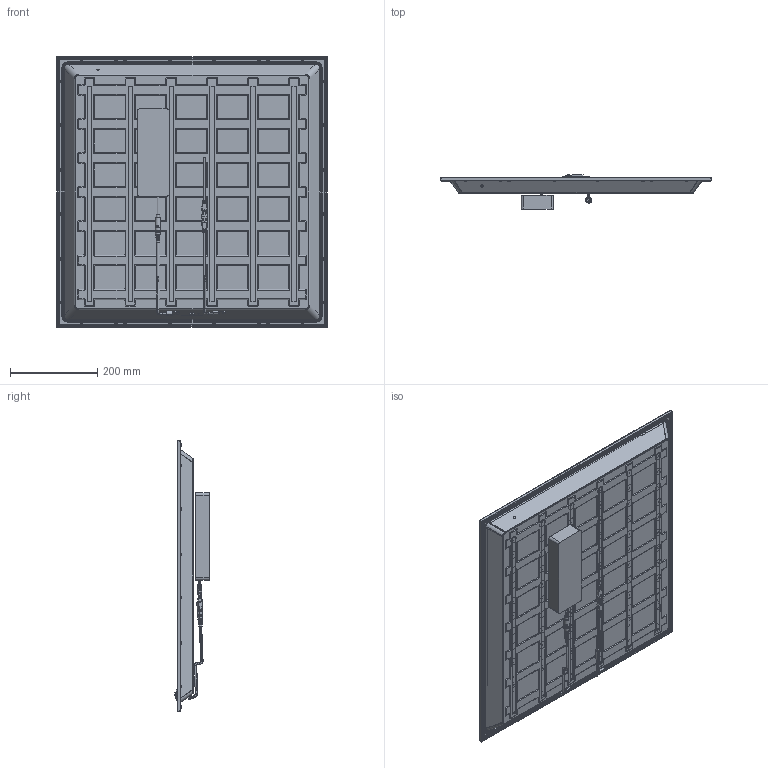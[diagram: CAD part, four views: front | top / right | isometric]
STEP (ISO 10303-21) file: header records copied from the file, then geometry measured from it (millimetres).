
FILE_DESCRIPTION(/* description */ (''),/* implementation_level */ '2;1');
FILE_NAME(/* name */ '929003433606_sh10_20240112.stp',/* time_stamp */ '2024-01-12T17:16:24+08:00',/* author */ (''),/* organization */ (''),/* preprocessor_version */ 'ST-DEVELOPER v19.4',/* originating_system */ 'SIEMENS PLM Software NX2212.8901',/* authorisation */ '');
FILE_SCHEMA (('AUTOMOTIVE_DESIGN { 1 0 10303 214 3 1 1 1 }'));
Products named in the file (1): 整灯_欧洲直下620620感应款-
20240111_step_objects
Bounding box: 620 x 79.86 x 620 mm (x, y, z)
Volume: 1431107.7 mm3; surface area: 4173790.1 mm2
Topology: 53 solids, 63 shells, 7327 faces, 19166 edges, 12318 vertices
Faces by surface type: plane 3613, cylinder 2966, torus 244, cone 210, bspline 204, sphere 90
Entity records: 260619 total; most frequent: CARTESIAN_POINT 83610, ORIENTED_EDGE 38256, DIRECTION 32472, EDGE_CURVE 19128, VERTEX_POINT 12314, LINE 11196, VECTOR 11196, AXIS2_PLACEMENT_3D 10638
